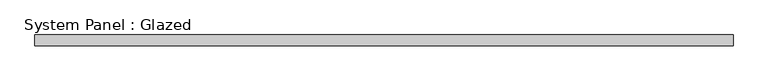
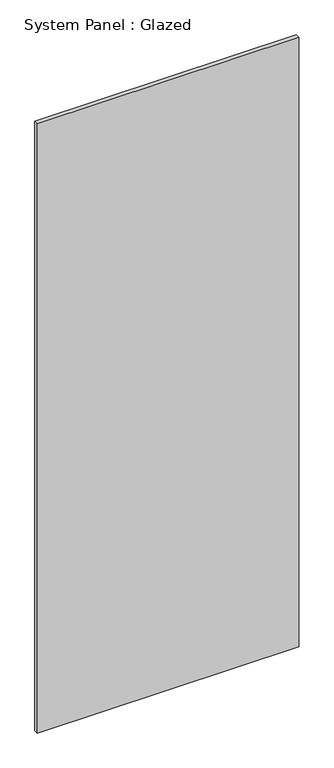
"""IFC4 building model written with IfcOpenShell, lengths in millimetres: plate geometry, System Panel : Glazed."""

import ifcopenshell
import ifcopenshell.guid

model = None  # the IFC model being written
_history = None  # IfcOwnerHistory: only IFC2X3 demands one
_inside = {}  # id of a spatial element -> (the spatial element, [elements in it])
_under = {}  # id of a project, library or spatial element -> (it, [spatial elements below it])
_declared = {}  # id of a project -> (the project, [libraries it declares])
_typed = {}  # id of a type object -> (the type object, [elements of that type])
_made_of = {}  # id of a material, layer set ... -> (it, [elements and type objects made of it])


def new_model(schema):
    """Start an empty IFC model of exactly this schema.

    Asked for "IFC4X3", IfcOpenShell would pick the latest addendum, in which some entities
    have other attributes; the version numbers below select the first issue.
    IFC2X3 requires an IfcOwnerHistory on every rooted entity: one is made here for all.
    """
    global model, _history
    if schema == "IFC4X3":
        model = ifcopenshell.file(schema_version=(4, 3, 0, 0))
    else:
        model = ifcopenshell.file(schema=schema)
    _inside.clear()
    _under.clear()
    _declared.clear()
    _typed.clear()
    _made_of.clear()
    _history = None
    if model.schema == "IFC2X3":
        org = make("IfcOrganization", Name="unknown")
        user = make(
            "IfcPersonAndOrganization",
            ThePerson=make("IfcPerson", FamilyName="unknown"),
            TheOrganization=org,
        )
        app = make(
            "IfcApplication",
            ApplicationDeveloper=org,
            Version="unknown",
            ApplicationFullName="unknown",
            ApplicationIdentifier="unknown",
        )
        _history = make(
            "IfcOwnerHistory",
            OwningUser=user,
            OwningApplication=app,
            ChangeAction="ADDED",
            CreationDate=0,
        )
    return model


def make(cls, **values):
    """One entity of the class cls with the attributes given. An attribute that is None is left unset."""
    return model.create_entity(
        cls, **{name: value for name, value in values.items() if value is not None}
    )


def rooted(cls, **values):
    """An entity with a GlobalId (a new one), such as an element, a storey or a relation."""
    return make(cls, GlobalId=ifcopenshell.guid.new(), OwnerHistory=_history, **values)


def si_unit(unit_type, name, prefix=None):
    """IfcSIUnit, for example si_unit("LENGTHUNIT", "METRE", prefix="MILLI")."""
    return make("IfcSIUnit", UnitType=unit_type, Prefix=prefix, Name=name)


def assignment(units):
    """IfcUnitAssignment: the units of a project."""
    return None if units is None else make("IfcUnitAssignment", Units=units)


def point(xyz):
    """IfcCartesianPoint."""
    return None if xyz is None else make("IfcCartesianPoint", Coordinates=xyz)


def direction(xyz):
    """IfcDirection."""
    return None if xyz is None else make("IfcDirection", DirectionRatios=xyz)


def frame(location, z_axis=None, x_axis=None):
    """IfcAxis2Placement3D, a coordinate frame: its origin and axes. An axis left out is left unset."""
    return make(
        "IfcAxis2Placement3D",
        Location=point(location),
        Axis=direction(z_axis),
        RefDirection=direction(x_axis),
    )


def origin():
    """The frame at (0, 0, 0) with its axes left unset."""
    return frame((0.0, 0.0, 0.0))


def origin_with_axes():
    """The frame at (0, 0, 0) with the z axis (0, 0, 1) and the x axis (1, 0, 0) written out."""
    return frame((0.0, 0.0, 0.0), z_axis=(0.0, 0.0, 1.0), x_axis=(1.0, 0.0, 0.0))


def place(relative_to, where):
    """IfcLocalPlacement: puts the frame where relative to a parent placement (None: the world)."""
    return make(
        "IfcLocalPlacement", PlacementRelTo=relative_to, RelativePlacement=where
    )


def context(
    kind, dimensions, precision=None, world=None, true_north=None, identifier=None
):
    """IfcGeometricRepresentationContext, for example the 3D "Model" context."""
    return make(
        "IfcGeometricRepresentationContext",
        ContextIdentifier=identifier,
        ContextType=kind,
        CoordinateSpaceDimension=dimensions,
        Precision=precision,
        WorldCoordinateSystem=world,
        TrueNorth=true_north,
    )


def project(units=None, contexts=None):
    """IfcProject with its units and contexts."""
    return rooted(
        "IfcProject",
        Name="project",
        RepresentationContexts=contexts,
        UnitsInContext=assignment(units),
    )


def spatial(cls, under=None, at=None, **own):
    """A site, building, storey or space (cls), placed at a placement, below another one or the project."""
    s = rooted(cls, ObjectPlacement=at, **own)
    if under is not None:
        _under.setdefault(under.id(), (under, []))[1].append(s)
    return s


def polyline(points):
    """IfcPolyline through the points."""
    return make("IfcPolyline", Points=[point(p) for p in points])


def outline(outer, holes=None, kind="AREA"):
    """IfcArbitraryClosedProfileDef: a profile drawn as a closed curve; with holes, ...WithVoids."""
    if holes is None:
        return make("IfcArbitraryClosedProfileDef", ProfileType=kind, OuterCurve=outer)
    return make(
        "IfcArbitraryProfileDefWithVoids",
        ProfileType=kind,
        OuterCurve=outer,
        InnerCurves=holes,
    )


def extrude(swept, where, along, depth):
    """IfcExtrudedAreaSolid: the profile swept, set in the frame where, extruded along a direction by depth."""
    return make(
        "IfcExtrudedAreaSolid",
        SweptArea=swept,
        Position=where,
        ExtrudedDirection=direction(along),
        Depth=depth,
    )


def shape(context_of_items, identifier, shape_type, items):
    """IfcShapeRepresentation: the items that make up one representation, for example the "Body"."""
    return make(
        "IfcShapeRepresentation",
        ContextOfItems=context_of_items,
        RepresentationIdentifier=identifier,
        RepresentationType=shape_type,
        Items=items,
    )


def source(mapping_origin, context_of_items, identifier, shape_type, items):
    """IfcRepresentationMap: a shape defined once, which mapped items show again and again."""
    return make(
        "IfcRepresentationMap",
        MappingOrigin=mapping_origin,
        MappedRepresentation=shape(context_of_items, identifier, shape_type, items),
    )


def transform(
    local_origin,
    x_axis=None,
    y_axis=None,
    z_axis=None,
    scale=None,
    scale2=None,
    scale3=None,
    uniform=True,
):
    """IfcCartesianTransformationOperator3D, or its non-uniform kind. x_axis, y_axis, z_axis: its Axis1, 2, 3."""
    if uniform:
        return make(
            "IfcCartesianTransformationOperator3D",
            Axis1=direction(x_axis),
            Axis2=direction(y_axis),
            LocalOrigin=point(local_origin),
            Scale=scale,
            Axis3=direction(z_axis),
        )
    return make(
        "IfcCartesianTransformationOperator3DnonUniform",
        Axis1=direction(x_axis),
        Axis2=direction(y_axis),
        LocalOrigin=point(local_origin),
        Scale=scale,
        Axis3=direction(z_axis),
        Scale2=scale2,
        Scale3=scale3,
    )


def mapped(mapping_source, mapping_target):
    """IfcMappedItem: shows the shape of a source again, moved by a transform."""
    return make(
        "IfcMappedItem", MappingSource=mapping_source, MappingTarget=mapping_target
    )


def made_of(thing, what):
    """Note that an element or type object is made of a material, layer set ...; save() writes the relation."""
    if what is not None:
        _made_of.setdefault(what.id(), (what, []))[1].append(thing)
    return thing


def element(
    cls,
    number,
    at=None,
    inside=None,
    cuts=None,
    type_object=None,
    material=None,
    context=None,
    identifier="Body",
    shape_type=None,
    held_by="IfcProductDefinitionShape",
    body=None,
    shapes=None,
    **own,
):
    """One element of the class cls, such as IfcWall. Its Tag is "e" and its number.

    at: its placement. inside: the storey or other place that contains it. cuts: it is an
    opening in that element (IfcRelVoidsElement). A single representation is given by context,
    identifier, shape_type and body (its items); several are given by shapes. held_by: the class
    of the entity that holds the representations. save() writes the other relations.
    """
    e = rooted(cls, Tag="e%d" % number, ObjectPlacement=at, **own)
    if body is not None:
        shapes = [shape(context, identifier, shape_type, body)]
    if shapes is not None:
        e.Representation = make(held_by, Representations=shapes)
    if inside is not None:
        _inside.setdefault(inside.id(), (inside, []))[1].append(e)
    if cuts is not None:
        rooted(
            "IfcRelVoidsElement", RelatingBuildingElement=cuts, RelatedOpeningElement=e
        )
    if type_object is not None:
        _typed.setdefault(type_object.id(), (type_object, []))[1].append(e)
    return made_of(e, material)


def aggregate(whole, parts):
    """IfcRelAggregates: a whole, such as a stair, and the parts it consists of."""
    return rooted("IfcRelAggregates", RelatingObject=whole, RelatedObjects=parts)


def save(model, path):
    """Write the relations noted so far, then the file.

    IfcRelAggregates (storeys below a building ...), IfcRelContainedInSpatialStructure (elements
    in a storey), IfcRelDefinesByType, IfcRelAssociatesMaterial and IfcRelDeclares: one each for
    every whole, place, type object, material and project.
    """
    for whole, parts in _under.values():
        aggregate(whole, parts)
    for where, things in _inside.values():
        rooted(
            "IfcRelContainedInSpatialStructure",
            RelatedElements=things,
            RelatingStructure=where,
        )
    for kind, things in _typed.values():
        rooted("IfcRelDefinesByType", RelatedObjects=things, RelatingType=kind)
    for what, things in _made_of.values():
        rooted("IfcRelAssociatesMaterial", RelatedObjects=things, RelatingMaterial=what)
    for by, libraries in _declared.values():
        rooted("IfcRelDeclares", RelatingContext=by, RelatedDefinitions=libraries)
    model.write(path)


def system_panel_glazed_ea0f2242(model_context):
    return source(origin(), model_context, "Body", "SweptSolid", [
        extrude(outline(polyline([(826.5833332, 19.05), (-826.5833332, 19.05), (-826.5833332, 44.45), (826.5833332, 44.45), (826.5833332, 19.05)])), origin_with_axes(), (0.0, 0.0, 1.0), 4073.0),
    ])


if __name__ == "__main__":
    model = new_model("IFC4")
    model_context = context("Model", 3, world=origin())
    ifc_project = project(units=[si_unit("LENGTHUNIT", "METRE", prefix="MILLI")], contexts=[model_context])
    site = spatial("IfcSite", under=ifc_project)
    building = spatial("IfcBuilding", under=site)
    placement = place(None, origin())
    system_panel_glazed_shape = system_panel_glazed_ea0f2242(model_context)
    element("IfcPlate", 1, ObjectType="System Panel : Glazed", at=placement, inside=building, context=model_context, shape_type="MappedRepresentation", body=[
        mapped(system_panel_glazed_shape, transform((0.0, 0.0, 0.0), x_axis=(1.0, 0.0, 0.0), y_axis=(0.0, 1.0, 0.0), z_axis=(0.0, 0.0, 1.0))),
    ])
    save(model, "model.ifc")
